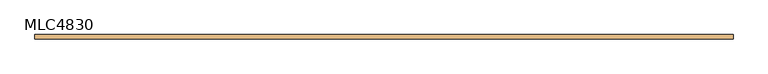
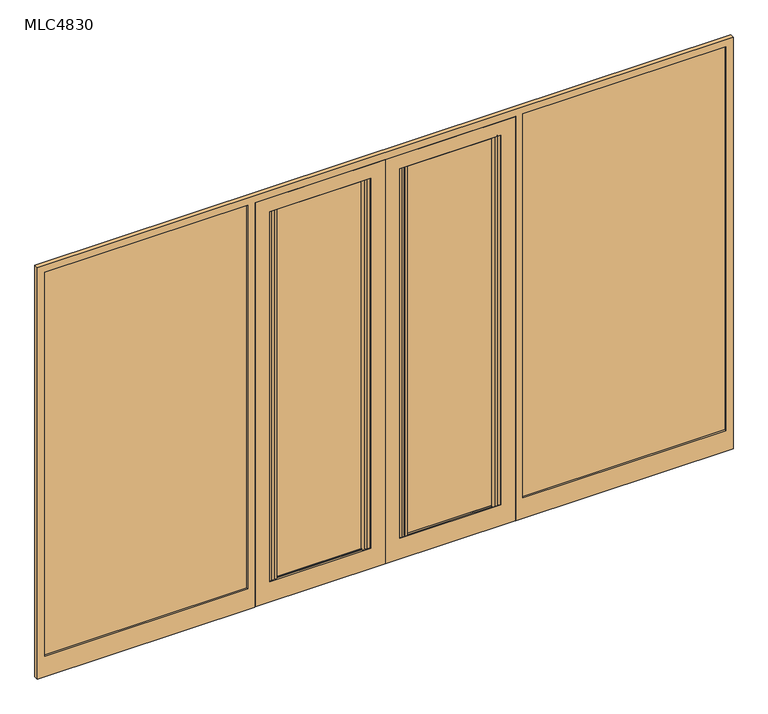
"""IFC4 building model written with IfcOpenShell, lengths in millimetres: door geometry, 双面嵌板连窗玻璃门 3 : MLC4830."""

from ifc_helpers import new_model, si_unit, frame, origin, place, context, project, spatial, polyline, circle_curve, outline, extrude, source, transform, mapped, element, save
from ifc_brep_helpers import plane_surface, cylinder_surface, advanced_brep


def mlc4830_251ce5c6(model_context):
    return source(origin(), model_context, "Body", "SolidModel", [
        advanced_brep(
        [(-798.0, 3.5, 2848.0), (-798.0, -3.5, 2848.0), (-779.265006, -3.5, 2848.0), (-760.530012, -3.5, 2848.0), (-741.795018, -3.5, 2848.0), (-157.204982, -3.5, 2848.0), (-138.469988, -3.5, 2848.0), (-119.734994, -3.5, 2848.0), (-101.0, -3.5, 2848.0), (-101.0, 3.5, 2848.0), (-119.734994, 3.5, 2848.0), (-138.469988, 3.5, 2848.0), (-157.204982, 3.5, 2848.0), (-741.795018, 3.5, 2848.0), (-760.530012, 3.5, 2848.0), (-779.265006, 3.5, 2848.0), (-798.0, 3.5, 150.0), (-779.265006, 3.5, 150.0), (-760.530012, 3.5, 150.0), (-741.795018, 3.5, 150.0), (-157.204982, 3.5, 150.0), (-138.469988, 3.5, 150.0), (-119.734994, 3.5, 150.0), (-101.0, 3.5, 150.0), (-101.0, -3.5, 150.0), (-119.734994, -3.5, 150.0), (-138.469988, -3.5, 150.0), (-157.204982, -3.5, 150.0), (-741.795018, -3.5, 150.0), (-760.530012, -3.5, 150.0), (-779.265006, -3.5, 150.0), (-798.0, -3.5, 150.0), (-798.0, 3.5, 2838.0), (-798.0, 3.5, 160.0), (-798.0, -3.5, 160.0), (-798.0, -3.5, 2838.0), (-779.265006, -3.5, 160.0), (-779.265006, -3.5, 2838.0), (-760.530012, -3.5, 160.0), (-760.530012, -3.5, 2838.0), (-741.795018, -3.5, 160.0), (-741.795018, 3.5, 160.0), (-760.530012, 3.5, 160.0), (-760.530012, 3.5, 2838.0), (-741.795018, 3.5, 2838.0), (-741.795018, -3.5, 2838.0), (-779.265006, 3.5, 160.0), (-779.265006, 3.5, 2838.0), (-101.0, 3.5, 2838.0), (-101.0, 3.5, 160.0), (-119.734994, 3.5, 160.0), (-119.734994, 3.5, 2838.0), (-138.469988, 3.5, 160.0), (-138.469988, 3.5, 2838.0), (-157.204982, -3.5, 2838.0), (-157.204982, 3.5, 2838.0), (-157.204982, 3.5, 160.0), (-157.204982, -3.5, 160.0), (-138.469988, -3.5, 160.0), (-138.469988, -3.5, 2838.0), (-119.734994, -3.5, 160.0), (-119.734994, -3.5, 2838.0), (-101.0, -3.5, 160.0), (-101.0, -3.5, 2838.0)],
        [
            (0, 1),
            (1, 2, circle_curve(frame((-788.632503, 0.0, 2848.0), z_axis=(0.0, 0.0, 1.0), x_axis=(1.0, 0.0, 0.0)), 10.0)),
            (2, 3, circle_curve(frame((-769.897509, 0.0, 2848.0), z_axis=(0.0, 0.0, 1.0), x_axis=(1.0, 0.0, 0.0)), 10.0)),
            (3, 4, circle_curve(frame((-751.162515, 0.0, 2848.0), z_axis=(0.0, 0.0, 1.0), x_axis=(1.0, 0.0, 0.0)), 10.0)),
            (4, 5),
            (5, 6, circle_curve(frame((-147.837485, 0.0, 2848.0), z_axis=(0.0, 0.0, 1.0), x_axis=(1.0, 0.0, 0.0)), 10.0)),
            (6, 7, circle_curve(frame((-129.102491, 0.0, 2848.0), z_axis=(0.0, 0.0, 1.0), x_axis=(1.0, 0.0, 0.0)), 10.0)),
            (7, 8, circle_curve(frame((-110.367497, 0.0, 2848.0), z_axis=(0.0, 0.0, 1.0), x_axis=(1.0, 0.0, 0.0)), 10.0)),
            (8, 9),
            (9, 10, circle_curve(frame((-110.367497, 0.0, 2848.0), z_axis=(0.0, 0.0, 1.0), x_axis=(1.0, 0.0, 0.0)), 10.0)),
            (10, 11, circle_curve(frame((-129.102491, 0.0, 2848.0), z_axis=(0.0, 0.0, 1.0), x_axis=(1.0, 0.0, 0.0)), 10.0)),
            (11, 12, circle_curve(frame((-147.837485, 0.0, 2848.0), z_axis=(0.0, 0.0, 1.0), x_axis=(1.0, 0.0, 0.0)), 10.0)),
            (12, 13),
            (13, 14, circle_curve(frame((-751.162515, 0.0, 2848.0), z_axis=(0.0, 0.0, 1.0), x_axis=(1.0, 0.0, 0.0)), 10.0)),
            (14, 15, circle_curve(frame((-769.897509, 0.0, 2848.0), z_axis=(0.0, 0.0, 1.0), x_axis=(1.0, 0.0, 0.0)), 10.0)),
            (15, 0, circle_curve(frame((-788.632503, 0.0, 2848.0), z_axis=(0.0, 0.0, 1.0), x_axis=(1.0, 0.0, 0.0)), 10.0)),
            (16, 17, circle_curve(frame((-788.632503, 0.0, 150.0), z_axis=(0.0, 0.0, -1.0), x_axis=(1.0, 0.0, 0.0)), 10.0)),
            (17, 18, circle_curve(frame((-769.897509, 0.0, 150.0), z_axis=(0.0, 0.0, -1.0), x_axis=(1.0, 0.0, 0.0)), 10.0)),
            (18, 19, circle_curve(frame((-751.162515, 0.0, 150.0), z_axis=(0.0, 0.0, -1.0), x_axis=(1.0, 0.0, 0.0)), 10.0)),
            (19, 20),
            (20, 21, circle_curve(frame((-147.837485, 0.0, 150.0), z_axis=(0.0, 0.0, -1.0), x_axis=(1.0, 0.0, 0.0)), 10.0)),
            (21, 22, circle_curve(frame((-129.102491, 0.0, 150.0), z_axis=(0.0, 0.0, -1.0), x_axis=(1.0, 0.0, 0.0)), 10.0)),
            (22, 23, circle_curve(frame((-110.367497, 0.0, 150.0), z_axis=(0.0, 0.0, -1.0), x_axis=(1.0, 0.0, 0.0)), 10.0)),
            (23, 24),
            (24, 25, circle_curve(frame((-110.367497, 0.0, 150.0), z_axis=(0.0, 0.0, -1.0), x_axis=(1.0, 0.0, 0.0)), 10.0)),
            (25, 26, circle_curve(frame((-129.102491, 0.0, 150.0), z_axis=(0.0, 0.0, -1.0), x_axis=(1.0, 0.0, 0.0)), 10.0)),
            (26, 27, circle_curve(frame((-147.837485, 0.0, 150.0), z_axis=(0.0, 0.0, -1.0), x_axis=(1.0, 0.0, 0.0)), 10.0)),
            (27, 28),
            (28, 29, circle_curve(frame((-751.162515, 0.0, 150.0), z_axis=(0.0, 0.0, -1.0), x_axis=(1.0, 0.0, 0.0)), 10.0)),
            (29, 30, circle_curve(frame((-769.897509, 0.0, 150.0), z_axis=(0.0, 0.0, -1.0), x_axis=(1.0, 0.0, 0.0)), 10.0)),
            (30, 31, circle_curve(frame((-788.632503, 0.0, 150.0), z_axis=(0.0, 0.0, -1.0), x_axis=(1.0, 0.0, 0.0)), 10.0)),
            (31, 16),
            (0, 32),
            (32, 33),
            (33, 16),
            (31, 34),
            (34, 35),
            (35, 1),
            (30, 36),
            (36, 37),
            (37, 2),
            (29, 38),
            (38, 39),
            (39, 3),
            (28, 40),
            (40, 41, circle_curve(frame((-751.162515, 0.0, 160.0), z_axis=(0.0, 0.0, 1.0), x_axis=(1.0, 0.0, 0.0)), 10.0)),
            (41, 19),
            (18, 42),
            (42, 43),
            (43, 14),
            (13, 44),
            (44, 45, circle_curve(frame((-751.162515, 0.0, 2838.0), z_axis=(0.0, 0.0, -1.0), x_axis=(1.0, 0.0, 0.0)), 10.0)),
            (45, 4),
            (17, 46),
            (46, 47),
            (47, 15),
            (9, 48),
            (48, 49),
            (49, 23),
            (22, 50),
            (50, 51),
            (51, 10),
            (21, 52),
            (52, 53),
            (53, 11),
            (5, 54),
            (54, 55, circle_curve(frame((-147.837485, 0.0, 2838.0), z_axis=(0.0, 0.0, -1.0), x_axis=(1.0, 0.0, 0.0)), 10.0)),
            (55, 12),
            (20, 56),
            (56, 57, circle_curve(frame((-147.837485, 0.0, 160.0), z_axis=(0.0, 0.0, 1.0), x_axis=(1.0, 0.0, 0.0)), 10.0)),
            (57, 27),
            (26, 58),
            (58, 59),
            (59, 6),
            (25, 60),
            (60, 61),
            (61, 7),
            (24, 62),
            (62, 63),
            (63, 8),
            (45, 54),
            (57, 40),
            (55, 44),
            (41, 56),
        ],
        [
            plane_surface(frame((-798.0, 3.5, 2848.0), z_axis=(0.0, 0.0, 1.0), x_axis=(0.0, -1.0, 0.0))),
            plane_surface(frame((-798.0, 3.5, 150.0), z_axis=(0.0, 0.0, -1.0), x_axis=(0.0, 1.0, 0.0))),
            plane_surface(frame((-798.0, 3.5, 2848.0), z_axis=(-1.0, 0.0, 0.0), x_axis=(0.0, 0.0, -1.0))),
            cylinder_surface(frame((-788.632503, 0.0, 150.0), z_axis=(0.0, 0.0, 1.0), x_axis=(1.0, 0.0, 0.0)), 10.0),
            cylinder_surface(frame((-769.897509, 0.0, 150.0), z_axis=(0.0, 0.0, 1.0), x_axis=(1.0, 0.0, 0.0)), 10.0),
            cylinder_surface(frame((-751.162515, 0.0, 150.0), z_axis=(0.0, 0.0, 1.0), x_axis=(1.0, 0.0, 0.0)), 10.0),
            cylinder_surface(frame((-110.367497, 0.0, 0.0), z_axis=(0.0, 0.0, 1.0), x_axis=(1.0, 0.0, 0.0)), 10.0),
            cylinder_surface(frame((-129.102491, 0.0, 0.0), z_axis=(0.0, 0.0, 1.0), x_axis=(1.0, 0.0, 0.0)), 10.0),
            cylinder_surface(frame((-147.837485, 0.0, 0.0), z_axis=(0.0, 0.0, 1.0), x_axis=(1.0, 0.0, 0.0)), 10.0),
            plane_surface(frame((-101.0, -3.5, 2848.0), z_axis=(1.0, 0.0, 0.0), x_axis=(0.0, 0.0, -1.0))),
            plane_surface(frame((-798.0, -3.5, 2848.0), z_axis=(0.0, -1.0, 0.0), x_axis=(-1.0, 0.0, 0.0))),
            plane_surface(frame((-798.0, 3.5, 2848.0), z_axis=(0.0, 1.0, 0.0), x_axis=(1.0, 0.0, 0.0))),
            plane_surface(frame((-798.0, -3.5, 2838.0), z_axis=(0.0, 0.0, -1.0), x_axis=(0.0, 1.0, 0.0))),
            plane_surface(frame((-101.0, -3.5, 160.0), z_axis=(0.0, 0.0, 1.0), x_axis=(0.0, 1.0, 0.0))),
        ],
        [
            (0, [[1, 2, 3, 4, 5, 6, 7, 8, 9, 10, 11, 12, 13, 14, 15, 16]]),
            (1, [[17, 18, 19, 20, 21, 22, 23, 24, 25, 26, 27, 28, 29, 30, 31, 32]]),
            (2, [[-1, 33, 34, 35, -32, 36, 37, 38]]),
            (3, [[-2, -38, -37, -36, -31, 39, 40, 41]]),
            (4, [[-3, -41, -40, -39, -30, 42, 43, 44]]),
            (5, [[-4, -44, -43, -42, -29, 45, 46, 47, -19, 48, 49, 50, -14, 51, 52, 53]]),
            (4, [[-15, -50, -49, -48, -18, 54, 55, 56]]),
            (3, [[-16, -56, -55, -54, -17, -35, -34, -33]]),
            (6, [[-10, 57, 58, 59, -23, 60, 61, 62]]),
            (7, [[-11, -62, -61, -60, -22, 63, 64, 65]]),
            (8, [[-6, 66, 67, 68, -12, -65, -64, -63, -21, 69, 70, 71, -27, 72, 73, 74]]),
            (7, [[-7, -74, -73, -72, -26, 75, 76, 77]]),
            (6, [[-8, -77, -76, -75, -25, 78, 79, 80]]),
            (9, [[-9, -80, -79, -78, -24, -59, -58, -57]]),
            (10, [[-5, -53, 81, -66]]),
            (10, [[-28, -71, 82, -45]]),
            (11, [[-13, -68, 83, -51]]),
            (11, [[-20, -47, 84, -69]]),
            (12, [[-81, -52, -83, -67]]),
            (13, [[-82, -70, -84, -46]]),
        ],
    ),
        advanced_brep(
        [(103.0, -3.5, 2848.0), (121.734994, -3.5, 2848.0), (140.469988, -3.5, 2848.0), (159.204982, -3.5, 2848.0), (743.795018, -3.5, 2848.0), (762.530012, -3.5, 2848.0), (781.265006, -3.5, 2848.0), (800.0, -3.5, 2848.0), (800.0, 3.5, 2848.0), (781.265006, 3.5, 2848.0), (762.530012, 3.5, 2848.0), (743.795018, 3.5, 2848.0), (159.204982, 3.5, 2848.0), (140.469988, 3.5, 2848.0), (121.734994, 3.5, 2848.0), (103.0, 3.5, 2848.0), (101.0, 3.5, 2848.0), (101.0, -3.5, 2848.0), (103.0, 3.5, 150.0), (121.734994, 3.5, 150.0), (140.469988, 3.5, 150.0), (159.204982, 3.5, 150.0), (743.795018, 3.5, 150.0), (762.530012, 3.5, 150.0), (781.265006, 3.5, 150.0), (800.0, 3.5, 150.0), (800.0, -3.5, 150.0), (781.265006, -3.5, 150.0), (762.530012, -3.5, 150.0), (743.795018, -3.5, 150.0), (159.204982, -3.5, 150.0), (140.469988, -3.5, 150.0), (121.734994, -3.5, 150.0), (103.0, -3.5, 150.0), (101.0, -3.5, 150.0), (101.0, 3.5, 150.0), (781.265006, 3.5, 160.0), (781.265006, 3.5, 2838.0), (762.530012, 3.5, 160.0), (762.530012, 3.5, 2838.0), (743.795018, -3.5, 2838.0), (743.795018, 3.5, 2838.0), (743.795018, 3.5, 160.0), (743.795018, -3.5, 160.0), (762.530012, -3.5, 160.0), (762.530012, -3.5, 2838.0), (781.265006, -3.5, 160.0), (781.265006, -3.5, 2838.0), (103.0, 3.5, 2838.0), (103.0, 3.5, 160.0), (103.0, -3.5, 160.0), (103.0, -3.5, 2838.0), (121.734994, -3.5, 160.0), (121.734994, -3.5, 2838.0), (140.469988, -3.5, 160.0), (140.469988, -3.5, 2838.0), (159.204982, -3.5, 160.0), (159.204982, 3.5, 160.0), (140.469988, 3.5, 160.0), (140.469988, 3.5, 2838.0), (159.204982, 3.5, 2838.0), (159.204982, -3.5, 2838.0), (121.734994, 3.5, 160.0), (121.734994, 3.5, 2838.0), (101.0, -3.5, 2838.0), (101.0, -3.5, 160.0), (101.0, 3.5, 2838.0), (101.0, 3.5, 160.0)],
        [
            (0, 1, circle_curve(frame((112.367497, 0.0, 2848.0), z_axis=(0.0, 0.0, 1.0), x_axis=(1.0, 0.0, 0.0)), 10.0)),
            (1, 2, circle_curve(frame((131.102491, 0.0, 2848.0), z_axis=(0.0, 0.0, 1.0), x_axis=(1.0, 0.0, 0.0)), 10.0)),
            (2, 3, circle_curve(frame((149.837485, 0.0, 2848.0), z_axis=(0.0, 0.0, 1.0), x_axis=(1.0, 0.0, 0.0)), 10.0)),
            (3, 4),
            (4, 5, circle_curve(frame((753.162515, 0.0, 2848.0), z_axis=(0.0, 0.0, 1.0), x_axis=(1.0, 0.0, 0.0)), 10.0)),
            (5, 6, circle_curve(frame((771.897509, 0.0, 2848.0), z_axis=(0.0, 0.0, 1.0), x_axis=(1.0, 0.0, 0.0)), 10.0)),
            (6, 7, circle_curve(frame((790.632503, 0.0, 2848.0), z_axis=(0.0, 0.0, 1.0), x_axis=(1.0, 0.0, 0.0)), 10.0)),
            (7, 8),
            (8, 9, circle_curve(frame((790.632503, 0.0, 2848.0), z_axis=(0.0, 0.0, 1.0), x_axis=(1.0, 0.0, 0.0)), 10.0)),
            (9, 10, circle_curve(frame((771.897509, 0.0, 2848.0), z_axis=(0.0, 0.0, 1.0), x_axis=(1.0, 0.0, 0.0)), 10.0)),
            (10, 11, circle_curve(frame((753.162515, 0.0, 2848.0), z_axis=(0.0, 0.0, 1.0), x_axis=(1.0, 0.0, 0.0)), 10.0)),
            (11, 12),
            (12, 13, circle_curve(frame((149.837485, 0.0, 2848.0), z_axis=(0.0, 0.0, 1.0), x_axis=(1.0, 0.0, 0.0)), 10.0)),
            (13, 14, circle_curve(frame((131.102491, 0.0, 2848.0), z_axis=(0.0, 0.0, 1.0), x_axis=(1.0, 0.0, 0.0)), 10.0)),
            (14, 15, circle_curve(frame((112.367497, 0.0, 2848.0), z_axis=(0.0, 0.0, 1.0), x_axis=(1.0, 0.0, 0.0)), 10.0)),
            (15, 16),
            (16, 17),
            (17, 0),
            (18, 19, circle_curve(frame((112.367497, 0.0, 150.0), z_axis=(0.0, 0.0, -1.0), x_axis=(1.0, 0.0, 0.0)), 10.0)),
            (19, 20, circle_curve(frame((131.102491, 0.0, 150.0), z_axis=(0.0, 0.0, -1.0), x_axis=(1.0, 0.0, 0.0)), 10.0)),
            (20, 21, circle_curve(frame((149.837485, 0.0, 150.0), z_axis=(0.0, 0.0, -1.0), x_axis=(1.0, 0.0, 0.0)), 10.0)),
            (21, 22),
            (22, 23, circle_curve(frame((753.162515, 0.0, 150.0), z_axis=(0.0, 0.0, -1.0), x_axis=(1.0, 0.0, 0.0)), 10.0)),
            (23, 24, circle_curve(frame((771.897509, 0.0, 150.0), z_axis=(0.0, 0.0, -1.0), x_axis=(1.0, 0.0, 0.0)), 10.0)),
            (24, 25, circle_curve(frame((790.632503, 0.0, 150.0), z_axis=(0.0, 0.0, -1.0), x_axis=(1.0, 0.0, 0.0)), 10.0)),
            (25, 26),
            (26, 27, circle_curve(frame((790.632503, 0.0, 150.0), z_axis=(0.0, 0.0, -1.0), x_axis=(1.0, 0.0, 0.0)), 10.0)),
            (27, 28, circle_curve(frame((771.897509, 0.0, 150.0), z_axis=(0.0, 0.0, -1.0), x_axis=(1.0, 0.0, 0.0)), 10.0)),
            (28, 29, circle_curve(frame((753.162515, 0.0, 150.0), z_axis=(0.0, 0.0, -1.0), x_axis=(1.0, 0.0, 0.0)), 10.0)),
            (29, 30),
            (30, 31, circle_curve(frame((149.837485, 0.0, 150.0), z_axis=(0.0, 0.0, -1.0), x_axis=(1.0, 0.0, 0.0)), 10.0)),
            (31, 32, circle_curve(frame((131.102491, 0.0, 150.0), z_axis=(0.0, 0.0, -1.0), x_axis=(1.0, 0.0, 0.0)), 10.0)),
            (32, 33, circle_curve(frame((112.367497, 0.0, 150.0), z_axis=(0.0, 0.0, -1.0), x_axis=(1.0, 0.0, 0.0)), 10.0)),
            (33, 34),
            (34, 35),
            (35, 18),
            (8, 25),
            (24, 36),
            (36, 37),
            (37, 9),
            (23, 38),
            (38, 39),
            (39, 10),
            (4, 40),
            (40, 41, circle_curve(frame((753.162515, 0.0, 2838.0), z_axis=(0.0, 0.0, -1.0), x_axis=(1.0, 0.0, 0.0)), 10.0)),
            (41, 11),
            (22, 42),
            (42, 43, circle_curve(frame((753.162515, 0.0, 160.0), z_axis=(0.0, 0.0, 1.0), x_axis=(1.0, 0.0, 0.0)), 10.0)),
            (43, 29),
            (28, 44),
            (44, 45),
            (45, 5),
            (27, 46),
            (46, 47),
            (47, 6),
            (26, 7),
            (48, 49),
            (49, 50),
            (50, 51),
            (51, 48),
            (0, 51),
            (50, 33),
            (32, 52),
            (52, 53),
            (53, 1),
            (31, 54),
            (54, 55),
            (55, 2),
            (30, 56),
            (56, 57, circle_curve(frame((149.837485, 0.0, 160.0), z_axis=(0.0, 0.0, 1.0), x_axis=(1.0, 0.0, 0.0)), 10.0)),
            (57, 21),
            (20, 58),
            (58, 59),
            (59, 13),
            (12, 60),
            (60, 61, circle_curve(frame((149.837485, 0.0, 2838.0), z_axis=(0.0, 0.0, -1.0), x_axis=(1.0, 0.0, 0.0)), 10.0)),
            (61, 3),
            (19, 62),
            (62, 63),
            (63, 14),
            (18, 49),
            (48, 15),
            (61, 40),
            (43, 56),
            (17, 64),
            (64, 51),
            (65, 34),
            (50, 65),
            (41, 60),
            (57, 42),
            (66, 16),
            (48, 66),
            (35, 67),
            (67, 49),
            (66, 64),
            (65, 67),
        ],
        [
            plane_surface(frame((-798.0, 3.5, 2848.0), z_axis=(0.0, 0.0, 1.0), x_axis=(0.0, -1.0, 0.0))),
            plane_surface(frame((-798.0, 3.5, 150.0), z_axis=(0.0, 0.0, -1.0), x_axis=(0.0, 1.0, 0.0))),
            cylinder_surface(frame((790.632503, 0.0, 0.0), z_axis=(0.0, 0.0, 1.0), x_axis=(1.0, 0.0, 0.0)), 10.0),
            cylinder_surface(frame((771.897509, 0.0, 0.0), z_axis=(0.0, 0.0, 1.0), x_axis=(1.0, 0.0, 0.0)), 10.0),
            cylinder_surface(frame((753.162515, 0.0, 0.0), z_axis=(0.0, 0.0, 1.0), x_axis=(1.0, 0.0, 0.0)), 10.0),
            plane_surface(frame((800.0, -3.5, 2848.0), z_axis=(1.0, 0.0, 0.0), x_axis=(0.0, 0.0, -1.0))),
            plane_surface(frame((103.0, 3.5, 2848.0), z_axis=(-1.0, 0.0, 0.0), x_axis=(0.0, 0.0, -1.0))),
            cylinder_surface(frame((112.367497, 0.0, 0.0), z_axis=(0.0, 0.0, 1.0), x_axis=(1.0, 0.0, 0.0)), 10.0),
            cylinder_surface(frame((131.102491, 0.0, 0.0), z_axis=(0.0, 0.0, 1.0), x_axis=(1.0, 0.0, 0.0)), 10.0),
            cylinder_surface(frame((149.837485, 0.0, 0.0), z_axis=(0.0, 0.0, 1.0), x_axis=(1.0, 0.0, 0.0)), 10.0),
            plane_surface(frame((-798.0, -3.5, 2848.0), z_axis=(0.0, -1.0, 0.0), x_axis=(-1.0, 0.0, 0.0))),
            plane_surface(frame((-798.0, 3.5, 2848.0), z_axis=(0.0, 1.0, 0.0), x_axis=(1.0, 0.0, 0.0))),
            plane_surface(frame((101.0, -3.5, 2848.0), z_axis=(-1.0, 0.0, 0.0), x_axis=(0.0, 1.0, 0.0))),
            plane_surface(frame((101.0, -3.5, 2838.0), z_axis=(0.0, 0.0, -1.0), x_axis=(0.0, 1.0, 0.0))),
            plane_surface(frame((101.0, -3.5, 160.0), z_axis=(-1.0, 0.0, 0.0), x_axis=(0.0, 1.0, 0.0))),
            plane_surface(frame((798.0, -3.5, 160.0), z_axis=(0.0, 0.0, 1.0), x_axis=(0.0, 1.0, 0.0))),
        ],
        [
            (0, [[1, 2, 3, 4, 5, 6, 7, 8, 9, 10, 11, 12, 13, 14, 15, 16, 17, 18]]),
            (1, [[19, 20, 21, 22, 23, 24, 25, 26, 27, 28, 29, 30, 31, 32, 33, 34, 35, 36]]),
            (2, [[-9, 37, -25, 38, 39, 40]]),
            (3, [[-10, -40, -39, -38, -24, 41, 42, 43]]),
            (4, [[-5, 44, 45, 46, -11, -43, -42, -41, -23, 47, 48, 49, -29, 50, 51, 52]]),
            (3, [[-6, -52, -51, -50, -28, 53, 54, 55]]),
            (2, [[-7, -55, -54, -53, -27, 56]]),
            (5, [[-8, -56, -26, -37]]),
            (6, [[57, 58, 59, 60]]),
            (7, [[-1, 61, -59, 62, -33, 63, 64, 65]]),
            (8, [[-2, -65, -64, -63, -32, 66, 67, 68]]),
            (9, [[-3, -68, -67, -66, -31, 69, 70, 71, -21, 72, 73, 74, -13, 75, 76, 77]]),
            (8, [[-14, -74, -73, -72, -20, 78, 79, 80]]),
            (7, [[-15, -80, -79, -78, -19, 81, -57, 82]]),
            (10, [[-4, -77, 83, -44]]),
            (10, [[-30, -49, 84, -69]]),
            (10, [[85, 86, -61, -18]]),
            (10, [[87, -34, -62, 88]]),
            (11, [[-12, -46, 89, -75]]),
            (11, [[-22, -71, 90, -47]]),
            (11, [[91, -16, -82, 92]]),
            (11, [[93, 94, -81, -36]]),
            (12, [[-85, -17, -91, 95]]),
            (13, [[-83, -76, -89, -45]]),
            (13, [[-95, -92, -60, -86]]),
            (14, [[-87, 96, -93, -35]]),
            (15, [[-84, -48, -90, -70]]),
            (15, [[-96, -88, -58, -94]]),
        ],
    ),
        extrude(outline(polyline([(0.0, -1.0), (2948.0, -1.0), (2948.0, -898.0), (0.0, -898.0), (0.0, -1.0)]), holes=[polyline([(150.0, -101.0), (150.0, -798.0), (2848.0, -798.0), (2848.0, -101.0), (150.0, -101.0)])]), frame((0.0, -15.0, 0.0), z_axis=(0.0, 1.0, 0.0), x_axis=(0.0, 0.0, 1.0)), (0.0, 0.0, 1.0), 30.0),
        extrude(outline(polyline([(0.0, 1.0), (0.0, 898.0), (2948.0, 898.0), (2948.0, 1.0), (0.0, 1.0)]), holes=[polyline([(150.0, 101.0), (2848.0, 101.0), (2848.0, 798.0), (150.0, 798.0), (150.0, 101.0)])]), frame((0.0, -15.0, 0.0), z_axis=(0.0, 1.0, 0.0), x_axis=(0.0, 0.0, 1.0)), (0.0, 0.0, 1.0), 30.0),
        extrude(outline(polyline([(-950.0, -3.0), (-2350.0, -3.0), (-2350.0, 3.0), (-950.0, 3.0), (-950.0, -3.0)])), frame((0.0, 0.0, 150.0), z_axis=(0.0, 0.0, 1.0), x_axis=(1.0, 0.0, 0.0)), (0.0, 0.0, 1.0), 2800.0),
        extrude(outline(polyline([(2350.0, -3.0), (950.0, -3.0), (950.0, 3.0), (2350.0, 3.0), (2350.0, -3.0)])), frame((0.0, 0.0, 150.0), z_axis=(0.0, 0.0, 1.0), x_axis=(1.0, 0.0, 0.0)), (0.0, 0.0, 1.0), 2800.0),
        extrude(outline(polyline([(-101.0, -3.0), (-798.0, -3.0), (-798.0, 3.0), (-101.0, 3.0), (-101.0, -3.0)])), frame((0.0, 0.0, 150.0), z_axis=(0.0, 0.0, 1.0), x_axis=(1.0, 0.0, 0.0)), (0.0, 0.0, 1.0), 2698.0),
        extrude(outline(polyline([(798.0, -3.0), (101.0, -3.0), (101.0, 3.0), (798.0, 3.0), (798.0, -3.0)])), frame((0.0, 0.0, 150.0), z_axis=(0.0, 0.0, 1.0), x_axis=(1.0, 0.0, 0.0)), (0.0, 0.0, 1.0), 2698.0),
        extrude(outline(polyline([(3000.0, -2400.0), (0.0, -2400.0), (0.0, -900.0), (2950.0, -900.0), (2950.0, 900.0), (0.0, 900.0), (0.0, 2400.0), (3000.0, 2400.0), (3000.0, -2400.0)]), holes=[polyline([(2950.0, -950.0), (150.0, -950.0), (150.0, -2350.0), (2950.0, -2350.0), (2950.0, -950.0)]), polyline([(2950.0, 950.0), (2950.0, 2350.0), (150.0, 2350.0), (150.0, 950.0), (2950.0, 950.0)])]), frame((0.0, -15.0, 0.0), z_axis=(0.0, 1.0, 0.0), x_axis=(0.0, 0.0, 1.0)), (0.0, 0.0, 1.0), 30.0),
    ])


if __name__ == "__main__":
    model = new_model("IFC4")
    model_context = context("Model", 3, world=origin())
    ifc_project = project(units=[si_unit("LENGTHUNIT", "METRE", prefix="MILLI")], contexts=[model_context])
    site = spatial("IfcSite", under=ifc_project)
    building = spatial("IfcBuilding", under=site)
    placement = place(None, origin())
    mlc4830_shape = mlc4830_251ce5c6(model_context)
    element("IfcDoor", 1, ObjectType="双面嵌板连窗玻璃门 3 : MLC4830", at=placement, inside=building, context=model_context, shape_type="MappedRepresentation", body=[
        mapped(mlc4830_shape, transform((0.0, 0.0, 0.0), x_axis=(1.0, 0.0, 0.0), y_axis=(0.0, 1.0, 0.0), z_axis=(0.0, 0.0, 1.0))),
    ])
    save(model, "model.ifc")
